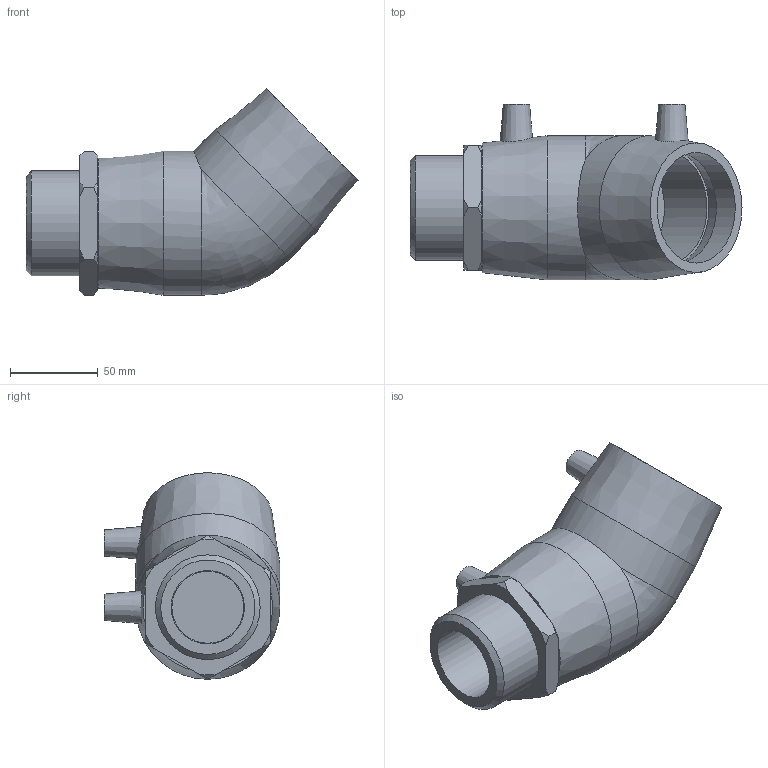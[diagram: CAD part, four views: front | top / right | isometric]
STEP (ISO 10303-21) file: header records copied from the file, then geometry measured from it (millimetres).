
FILE_DESCRIPTION(/* description */ ('PLASSON 45° ELBOW TRANSITION MALE 63-2"'),/* implementation_level */ '2;1');
FILE_NAME(/* name */ 'C:\Dropbox\KIMPROJECTS-Inventor\99-16-3568-Processing\ElectroFusion Fittings\02.02.20\492604\492604063020.ipt.stp',/* time_stamp */ '2020-02-02T12:20:08+02:00',/* author */ ('KIM'),/* organization */ (''),/* preprocessor_version */ 'ST-DEVELOPER v15.6',/* originating_system */ 'Autodesk Inventor 2015',/* authorisation */ '');
FILE_SCHEMA (('AUTOMOTIVE_DESIGN { 1 0 10303 214 3 1 1 }'));
Length unit declared in the file: millimetre
Products named in the file (1): 492604063020
Bounding box: 189 x 100 x 117.59 mm (x, y, z)
Volume: 501259.6 mm3; surface area: 88099.2 mm2
Topology: 1 solids, 2 shells, 59 faces, 133 edges, 88 vertices
Faces by surface type: plane 24, cone 19, cylinder 15, bspline 1
Full cylindrical faces by diameter (mm): 4 x2, 10 x2, 40.95 x2, 41.73 x1, 48 x1, 59.614 x1, 63 x4, 82 x2
Entity records: 1500 total; most frequent: CARTESIAN_POINT 369, DIRECTION 236, ORIENTED_EDGE 188, AXIS2_PLACEMENT_3D 109, EDGE_LOOP 97, EDGE_CURVE 94, VERTEX_POINT 75, FACE_OUTER_BOUND 59
